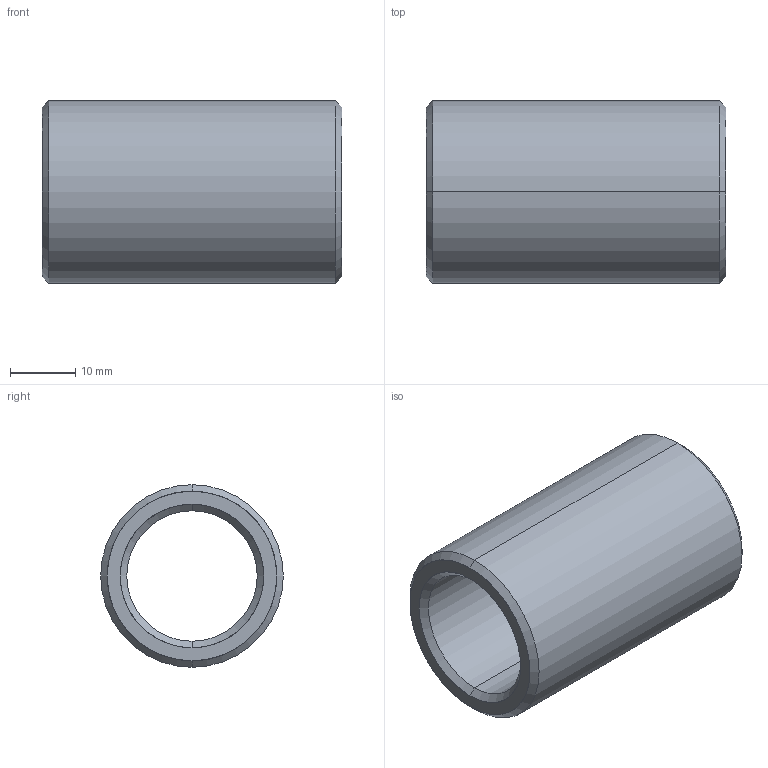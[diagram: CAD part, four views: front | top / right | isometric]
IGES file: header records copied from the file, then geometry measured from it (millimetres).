
Start section: START RECORD GO HERE.
Global section: file name: 352-20X46.igs; native system: DASSAULT SYSTEMES CATIA V5 R20 - www.3ds.com; preprocessor: CATIA Version 5 Release 20 ; author: Utente; organization: NB04-ASUS; date: 20210412.172217; units: millimetre
Bounding box: 46 x 28 x 28 mm (x, y, z)
Surface area: 7372.1 mm2 (no closed solid volume)
Topology: 0 solids, 0 shells, 14 faces, 88 edges, 88 vertices
Faces by surface type: revolution 12, plane 2
